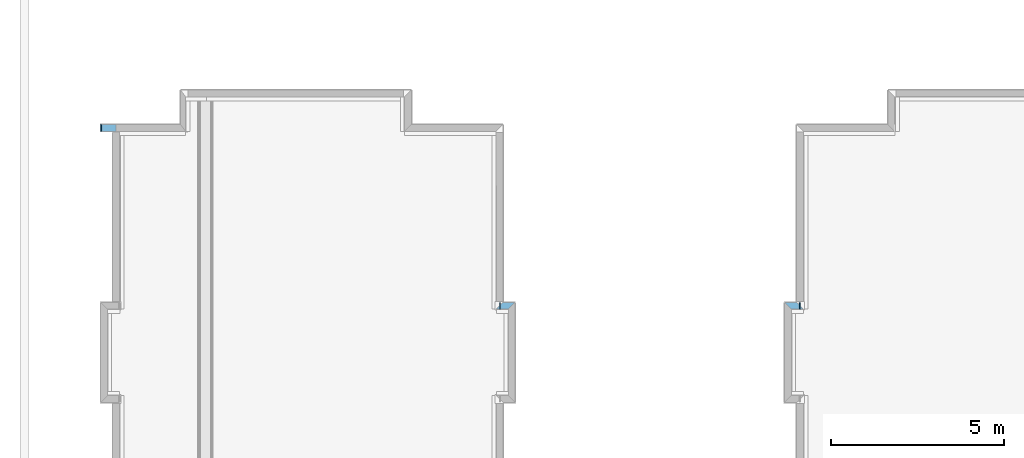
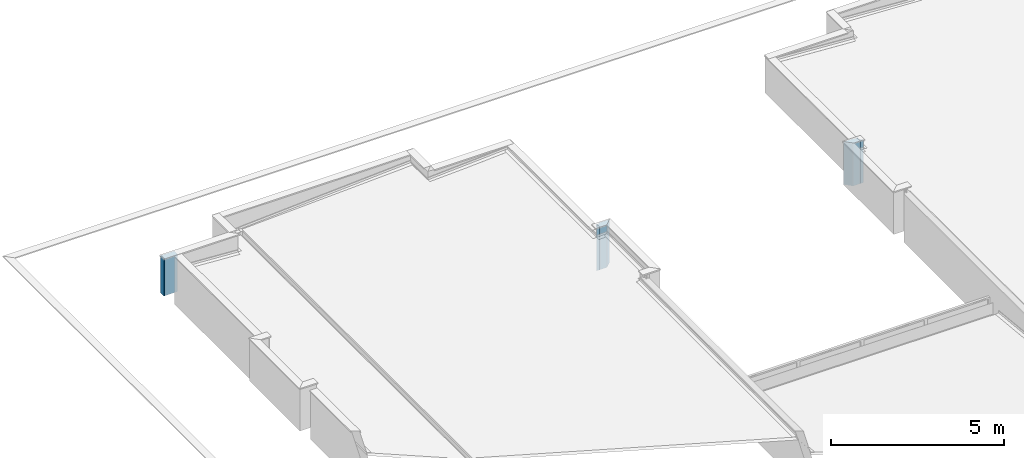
# One storey, part 19 of 25: 3 walls, 3 openings, plus 3 elements that do not belong to this part.
"""IFC4 building model written with IfcOpenShell, lengths in metres."""

from ifc_helpers import new_model, entity, si_unit, converted_unit, derived_unit, direction, frame, origin_with_axes, origin_2d_with_axis, place, context, subcontext, project, spatial, line, indexed_curve, rectangle, outline, extrude, polygons, material, layer, layer_set, layer_usage, constituent, constituent_set, type_object, element, fill, save


model = new_model("IFC4")

# Units and contexts
model_context = context("Model", 3, precision=1e-05, world=origin_with_axes(), true_north=direction((0.0, 1.0)))
body_context = subcontext(model_context, "Body", "Model", "MODEL_VIEW")
ifc_project = project(units=[si_unit("LENGTHUNIT", "METRE"), si_unit("AREAUNIT", "SQUARE_METRE"), si_unit("VOLUMEUNIT", "CUBIC_METRE"), converted_unit("PLANEANGLEUNIT", "DEGREE", entity("IfcPlaneAngleMeasure", 0.0174532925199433), si_unit("PLANEANGLEUNIT", "RADIAN"), dimensions=[0, 0, 0, 0, 0, 0, 0]), converted_unit("TIMEUNIT", "Year", entity("IfcTimeMeasure", 31557600.0), si_unit("TIMEUNIT", "SECOND"), dimensions=[0, 0, 1, 0, 0, 0, 0]), si_unit("MASSUNIT", "GRAM", prefix="KILO"), si_unit("THERMODYNAMICTEMPERATUREUNIT", "DEGREE_CELSIUS"), si_unit("LUMINOUSINTENSITYUNIT", "LUMEN"), si_unit("ENERGYUNIT", "JOULE", prefix="MEGA"), derived_unit("THERMALCONDUCTANCEUNIT", [(si_unit("POWERUNIT", "WATT"), 1), (si_unit("LENGTHUNIT", "METRE"), -1), (si_unit("THERMODYNAMICTEMPERATUREUNIT", "KELVIN"), -1)]), derived_unit("SPECIFICHEATCAPACITYUNIT", [(si_unit("ENERGYUNIT", "JOULE"), 1), (si_unit("MASSUNIT", "GRAM", prefix="KILO"), -1), (si_unit("THERMODYNAMICTEMPERATUREUNIT", "KELVIN"), -1)]), derived_unit("MASSDENSITYUNIT", [(si_unit("MASSUNIT", "GRAM", prefix="KILO"), 1), (si_unit("VOLUMEUNIT", "CUBIC_METRE"), -1)])], contexts=[model_context])

# Site, building, storey
site_placement = place(None, origin_with_axes())
site = spatial("IfcSite", under=ifc_project, at=site_placement, Name="PADRÃO", CompositionType="ELEMENT")
building_placement = place(site_placement, origin_with_axes())
building = spatial("IfcBuilding", under=site, at=building_placement, Name="CRECHE PRÉ-ESCOLA TIPO 2", CompositionType="ELEMENT")
storey_placement = place(building_placement, frame((0.0, 0.0, 3.26), z_axis=(0.0, 0.0, 1.0), x_axis=(1.0, 0.0, 0.0)))
storey = spatial("IfcBuildingStorey", under=building, at=storey_placement, Name="COBERTURA", CompositionType="ELEMENT", Elevation=3.26)

# Walls, opening
ifc_material_1 = material(Name="EI-REV-Pintura Acrílica Cor Branco Gelo")
ifc_layer_1 = layer(ifc_material_1, 0.015, ventilated="UNKNOWN", Name="EI-REV-Pintura Acrílica Cor Branco Gelo 1")
ifc_material_2 = material(Name="EI-REV-Massa Acrílica (externa)")
ifc_layer_2 = layer(ifc_material_2, 0.005, ventilated="UNKNOWN", Name="EI-REV-Massa Acrílica (externa) 1")
ifc_material_3 = material(Name="EI-REV-Massa única - Fachada")
ifc_layer_3 = layer(ifc_material_3, 0.005, ventilated="UNKNOWN", Name="EI-REV-Massa única - Fachada 1")
ifc_material_4 = material(Name="EI-REV-Chapisco (externo)")
ifc_layer_4 = layer(ifc_material_4, 0.005, ventilated="UNKNOWN", Name="EI-REV-Chapisco (externo) 1")
ifc_material_5 = material(Name="TIJOLO - CERAMICO 14x19x39 - espessura 20cm")
ifc_layer_5 = layer(ifc_material_5, 0.14, ventilated="UNKNOWN", Name="TIJOLO - CERAMICO 14x19x39 - espessura 20cm")
ifc_layer_6 = layer(ifc_material_4, 0.005, ventilated="UNKNOWN", Name="EI-REV-Chapisco (externo) 2")
ifc_layer_7 = layer(ifc_material_3, 0.005, ventilated="UNKNOWN", Name="EI-REV-Massa única - Fachada 2")
ifc_layer_8 = layer(ifc_material_2, 0.005, ventilated="UNKNOWN", Name="EI-REV-Massa Acrílica (externa) 2")
ifc_layer_9 = layer(ifc_material_1, 0.015, ventilated="UNKNOWN", Name="EI-REV-Pintura Acrílica Cor Branco Gelo 2")
ifc_layer_set_1 = layer_set([ifc_layer_1, ifc_layer_2, ifc_layer_3, ifc_layer_4, ifc_layer_5, ifc_layer_6, ifc_layer_7, ifc_layer_8, ifc_layer_9], Name="FNDE-PLAT_AL14-Pintura Branca")
ifc_layer_usage_1 = layer_usage(ifc_layer_set_1, "AXIS2", "NEGATIVE", 0.1)
wall_type_1 = type_object("IfcWallType", Name="FNDE-PLAT_AL14-Pintura Branca 200", PredefinedType="NOTDEFINED")
wall_1_placement = place(storey_placement, frame((-17.790012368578, 34.7001613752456, 0.0), z_axis=(0.0, 0.0, 1.0), x_axis=(0.999999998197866, 6.00355582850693e-05, 0.0)))
wall_1 = element("IfcWall", 1, at=wall_1_placement, inside=storey, type_object=wall_type_1, material=ifc_layer_usage_1, Name="AL14", PredefinedType="NOTDEFINED", context=body_context, shape_type="SweptSolid", body=[
    extrude(outline(indexed_curve([(0.0999939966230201, -0.100000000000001), (0.449955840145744, -0.100000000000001), (0.249967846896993, 0.100000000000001), (-0.0999939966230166, 0.100000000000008)], segments=[line(1, 2, 3, 4, 1)])), origin_with_axes(), (0.0, 0.0, 1.0), 1.51),
])
opening_1_placement = place(wall_1_placement, frame((0.34996184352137, 0.0, 0.0), z_axis=(0.0, 0.0, 1.0), x_axis=(1.0, 0.0, 0.0)))
opening_1 = element("IfcOpeningElement", 2, at=opening_1_placement, cuts=wall_1, Name="AL14", ObjectType="Recess", context=body_context, shape_type="Tessellation", body=[
    polygons([(-0.0199999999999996, -0.0799999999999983, 1.51), (-0.0199999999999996, -0.0799999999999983, 0.0), (-0.0200000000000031, -0.0850000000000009, 0.0), (-0.0200000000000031, -0.0850000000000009, 1.51), (-0.0249999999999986, -0.0799999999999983, 1.51), (-0.0249999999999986, -0.0799999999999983, 0.0), (0.0, 0.0, 0.0), (0.0, -0.100000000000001, 0.0), (-0.0150000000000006, -0.100000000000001, 0.0), (-0.0150000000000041, -0.0850000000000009, 0.0), (-0.0249999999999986, 0.0250015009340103, 0.0), (-0.0150000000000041, -0.0850000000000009, 1.51), (-0.0150000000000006, -0.100000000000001, 1.51), (0.0, -0.100000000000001, 1.51), (0.0, 0.0, 1.51), (-0.0249999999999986, 0.0250015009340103, 1.51)], [[[1, 2, 3, 4]], [[2, 1, 5, 6]], [[7, 8, 9, 10, 3, 2, 6, 11]], [[10, 12, 4, 3]], [[1, 4, 12, 13, 14, 15, 16, 5]], [[5, 16, 11, 6]], [[15, 14, 8, 7]], [[14, 13, 9, 8]], [[12, 10, 9, 13]], [[7, 11, 16, 15]]], closed=True),
])
ifc_constituent_1 = constituent(ifc_material_1, Name="EI-REV-Pintura Acrílica Cor Branco Gelo")
ifc_constituent_2 = constituent(ifc_material_2, Name="EI-REV-Massa Acrílica (externa)")
ifc_constituent_3 = constituent(ifc_material_3, Name="EI-REV-Massa única - Fachada")
ifc_constituent_set_1 = constituent_set(constituents=[ifc_constituent_1, ifc_constituent_2, ifc_constituent_3])
wall_type_2 = type_object("IfcWallType", Name="Arremate com Dobra Revest 27", PredefinedType="NOTDEFINED")
wall_2_placement = place(opening_1_placement, frame((0.0124999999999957, 0.0, 0.0), z_axis=(0.0, 0.0, 1.0), x_axis=(-1.0, 0.0, 0.0)))
wall_2 = element("IfcWall", 3, at=wall_2_placement, inside=storey, type_object=wall_type_2, material=ifc_constituent_set_1, Name="AL14", PredefinedType="NOTDEFINED", context=body_context, shape_type="Tessellation", body=[
    polygons([(0.0124999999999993, -0.0849999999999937, 0.0), (0.0274999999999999, -0.0849999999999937, 0.0), (0.0274999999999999, -0.0849999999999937, 1.51), (0.0124999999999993, -0.0849999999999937, 1.51), (0.0124999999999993, 0.100000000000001, 0.0), (0.0274999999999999, 0.100000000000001, 0.0), (0.0274999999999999, 0.100000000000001, 1.51), (0.0124999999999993, 0.100000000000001, 1.51)], [[[1, 2, 3, 4]], [[5, 6, 2, 1]], [[6, 7, 3, 2]], [[7, 8, 4, 3]], [[8, 5, 1, 4]], [[5, 8, 7, 6]]], closed=True),
    polygons([(0.0274999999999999, -0.0849999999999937, 0.0), (0.0324999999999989, -0.0850000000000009, 0.0), (0.0324999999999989, -0.0850000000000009, 1.51), (0.0274999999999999, -0.0849999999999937, 1.51), (0.0275000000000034, 0.0850000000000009, 0.0), (0.0325000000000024, 0.0850000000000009, 0.0), (0.0325000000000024, 0.0850000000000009, 1.51), (0.0275000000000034, 0.0850000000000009, 1.51)], [[[1, 2, 3, 4]], [[5, 6, 2, 1]], [[6, 7, 3, 2]], [[7, 8, 4, 3]], [[8, 5, 1, 4]], [[5, 8, 7, 6]]], closed=True),
    polygons([(0.0324999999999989, -0.0850000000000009, 0.0), (0.0374999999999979, -0.0849999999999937, 0.0), (0.0374999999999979, -0.0849999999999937, 1.51), (0.0324999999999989, -0.0850000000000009, 1.51), (0.0324999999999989, 0.0799999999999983, 0.0), (0.0374999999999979, 0.0799999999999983, 0.0), (0.0374999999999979, 0.0799999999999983, 1.51), (0.0324999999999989, 0.0799999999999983, 1.51)], [[[1, 2, 3, 4]], [[5, 6, 2, 1]], [[6, 7, 3, 2]], [[7, 8, 4, 3]], [[8, 5, 1, 4]], [[5, 8, 7, 6]]], closed=True),
])
fill(opening_1, wall_2)

ifc_layer_usage_2 = layer_usage(ifc_layer_set_1, "AXIS2", "POSITIVE", -0.1)
wall_3_placement = place(storey_placement, frame((-25.7895277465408, 34.7001619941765, 0.0), z_axis=(0.0, 0.0, 1.0), x_axis=(-0.999999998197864, 6.00355854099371e-05, 0.0)))
wall_3 = element("IfcWall", 4, at=wall_3_placement, inside=storey, type_object=wall_type_1, material=ifc_layer_usage_2, Name="AL14", PredefinedType="NOTDEFINED", context=body_context, shape_type="SweptSolid", body=[
    extrude(outline(indexed_curve([(-0.0999939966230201, -0.100000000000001), (0.250574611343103, -0.100000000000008), (0.450562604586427, 0.100000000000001), (0.0999939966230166, 0.100000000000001)], segments=[line(1, 2, 3, 4, 1)])), origin_with_axes(), (0.0, 0.0, 1.0), 1.51),
])
opening_2_placement = place(wall_3_placement, frame((0.350568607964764, 0.0, 0.0), z_axis=(0.0, 0.0, 1.0), x_axis=(1.0, 0.0, 0.0)))
opening_2 = element("IfcOpeningElement", 5, at=opening_2_placement, cuts=wall_3, Name="AL14", ObjectType="Recess", context=body_context, shape_type="Tessellation", body=[
    polygons([(-0.0199999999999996, 0.0799999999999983, 0.0), (-0.0199999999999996, 0.0799999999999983, 1.51), (-0.0199999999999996, 0.085000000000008, 1.51), (-0.0199999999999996, 0.085000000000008, 0.0), (-0.0249999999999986, 0.0800000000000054, 0.0), (-0.0249999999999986, 0.0800000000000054, 1.51), (0.0, 0.0, 1.51), (0.0, 0.0999999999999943, 1.51), (-0.0149999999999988, 0.100000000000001, 1.51), (-0.0149999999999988, 0.0850000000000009, 1.51), (-0.0249999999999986, -0.0250015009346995, 1.51), (-0.0149999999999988, 0.0850000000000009, 0.0), (-0.0149999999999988, 0.100000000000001, 0.0), (0.0, 0.0999999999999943, 0.0), (0.0, 0.0, 0.0), (-0.0249999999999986, -0.0250015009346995, 0.0)], [[[1, 2, 3, 4]], [[2, 1, 5, 6]], [[7, 8, 9, 10, 3, 2, 6, 11]], [[10, 12, 4, 3]], [[1, 4, 12, 13, 14, 15, 16, 5]], [[11, 6, 5, 16]], [[8, 7, 15, 14]], [[9, 8, 14, 13]], [[12, 10, 9, 13]], [[11, 16, 15, 7]]], closed=True),
])
ifc_constituent_4 = constituent(ifc_material_1, Name="EI-REV-Pintura Acrílica Cor Branco Gelo")
ifc_constituent_5 = constituent(ifc_material_2, Name="EI-REV-Massa Acrílica (externa)")
ifc_constituent_6 = constituent(ifc_material_3, Name="EI-REV-Massa única - Fachada")
ifc_constituent_set_2 = constituent_set(constituents=[ifc_constituent_4, ifc_constituent_5, ifc_constituent_6])
wall_4_placement = place(opening_2_placement, frame((-0.0124999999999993, 0.0, 0.0), z_axis=(0.0, 0.0, 1.0), x_axis=(1.0, 0.0, 0.0)))
wall_4 = element("IfcWall", 6, at=wall_4_placement, inside=storey, type_object=wall_type_2, material=ifc_constituent_set_2, Name="AL14", PredefinedType="NOTDEFINED", context=body_context, shape_type="Tessellation", body=[
    polygons([(0.0124999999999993, 0.0999999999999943, 0.0), (-0.0024999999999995, 0.100000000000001, 0.0), (-0.0024999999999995, 0.100000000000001, 1.51), (0.0124999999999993, 0.0999999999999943, 1.51), (0.0124999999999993, -0.0849999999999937, 0.0), (-0.0024999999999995, -0.085000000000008, 0.0), (-0.0024999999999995, -0.085000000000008, 1.51), (0.0124999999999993, -0.0849999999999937, 1.51)], [[[1, 2, 3, 4]], [[5, 6, 2, 1]], [[6, 7, 3, 2]], [[7, 8, 4, 3]], [[8, 5, 1, 4]], [[5, 8, 7, 6]]], closed=True),
    polygons([(-0.0024999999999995, 0.0850000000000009, 0.0), (-0.00750000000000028, 0.085000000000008, 0.0), (-0.00750000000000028, 0.085000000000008, 1.51), (-0.0024999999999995, 0.0850000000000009, 1.51), (-0.0024999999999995, -0.085000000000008, 0.0), (-0.00750000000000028, -0.0850000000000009, 0.0), (-0.00750000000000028, -0.0850000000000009, 1.51), (-0.0024999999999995, -0.085000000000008, 1.51)], [[[1, 2, 3, 4]], [[5, 6, 2, 1]], [[6, 7, 3, 2]], [[7, 8, 4, 3]], [[8, 5, 1, 4]], [[5, 8, 7, 6]]], closed=True),
    polygons([(-0.00750000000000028, 0.0799999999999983, 0.0), (-0.0124999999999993, 0.0800000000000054, 0.0), (-0.0124999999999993, 0.0800000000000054, 1.51), (-0.00750000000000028, 0.0799999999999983, 1.51), (-0.00750000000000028, -0.0850000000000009, 0.0), (-0.0125000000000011, -0.0850000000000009, 0.0), (-0.0125000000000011, -0.0850000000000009, 1.51), (-0.00750000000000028, -0.0850000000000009, 1.51)], [[[1, 2, 3, 4]], [[5, 6, 2, 1]], [[6, 7, 3, 2]], [[7, 8, 4, 3]], [[8, 5, 1, 4]], [[5, 8, 7, 6]]], closed=True),
])
fill(opening_2, wall_4)

ifc_material_6 = material(Name="EI-REV-Pintura Acrílica Cor Cinza")
ifc_layer_10 = layer(ifc_material_6, 0.015, ventilated="UNKNOWN", Name="EI-REV-Pintura Acrílica Cor Cinza 1")
ifc_layer_11 = layer(ifc_material_2, 0.005, ventilated="UNKNOWN", Name="EI-REV-Massa Acrílica (externa) 1")
ifc_layer_12 = layer(ifc_material_3, 0.005, ventilated="UNKNOWN", Name="EI-REV-Massa única - Fachada 1")
ifc_layer_13 = layer(ifc_material_4, 0.005, ventilated="UNKNOWN", Name="EI-REV-Chapisco (externo) 1")
ifc_layer_14 = layer(ifc_material_5, 0.14, ventilated="UNKNOWN", Name="TIJOLO - CERAMICO 14x19x39 - espessura 20cm")
ifc_layer_15 = layer(ifc_material_4, 0.005, ventilated="UNKNOWN", Name="EI-REV-Chapisco (externo) 2")
ifc_layer_16 = layer(ifc_material_3, 0.005, ventilated="UNKNOWN", Name="EI-REV-Massa única - Fachada 2")
ifc_layer_17 = layer(ifc_material_2, 0.005, ventilated="UNKNOWN", Name="EI-REV-Massa Acrílica (externa) 2")
ifc_layer_18 = layer(ifc_material_6, 0.015, ventilated="UNKNOWN", Name="EI-REV-Pintura Acrílica Cor Cinza 2")
ifc_layer_set_2 = layer_set([ifc_layer_10, ifc_layer_11, ifc_layer_12, ifc_layer_13, ifc_layer_14, ifc_layer_15, ifc_layer_16, ifc_layer_17, ifc_layer_18], Name="FNDE-PLAT_AL14-Pintura cinza")
ifc_layer_usage_3 = layer_usage(ifc_layer_set_2, "AXIS2", "POSITIVE", -0.1)
wall_type_3 = type_object("IfcWallType", Name="FNDE-PLAT_AL14-Pintura cinza 200", PredefinedType="NOTDEFINED")
wall_5_placement = place(storey_placement, frame((-37.2401040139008, 39.8500019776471, 0.0), z_axis=(0.0, 0.0, 1.0), x_axis=(-1.0, -2.17138795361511e-08, 0.0)))
wall_5 = element("IfcWall", 7, at=wall_5_placement, inside=storey, type_object=wall_type_3, material=ifc_layer_usage_3, Name="AL14", PredefinedType="NOTDEFINED", context=body_context, shape_type="SweptSolid", body=[
    extrude(outline(indexed_curve([(0.0, -0.100000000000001), (0.449967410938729, -0.100000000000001), (0.449967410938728, 0.100000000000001), (0.0, 0.100000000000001)], segments=[line(1, 2, 3, 4, 1)])), origin_with_axes(), (0.0, 0.0, 1.0), 1.31),
])
opening_3_placement = place(wall_5_placement, frame((0.449967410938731, 0.0, 0.0), z_axis=(0.0, 0.0, 1.0), x_axis=(1.0, 0.0, 0.0)))
opening_3 = element("IfcOpeningElement", 8, at=opening_3_placement, cuts=wall_5, Name="AL14", context=body_context, shape_type="SweptSolid", body=[
    extrude(rectangle(XDim=0.200000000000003, YDim=0.0150000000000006, at=origin_2d_with_axis()), frame((-0.00749999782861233, -9.60768176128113e-09, 0.0), z_axis=(0.0, 0.0, 1.0), x_axis=(-2.17138795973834e-08, -1.0, 0.0)), (0.0, 0.0, 1.0), 1.31),
    extrude(rectangle(XDim=0.185000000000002, YDim=0.00500000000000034, at=origin_2d_with_axis()), frame((-0.0174999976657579, 0.00749999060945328, 0.0), z_axis=(0.0, 0.0, 1.0), x_axis=(-2.17138795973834e-08, -1.0, 0.0)), (0.0, 0.0, 1.0), 1.31),
    extrude(rectangle(XDim=0.18, YDim=0.00500000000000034, at=origin_2d_with_axis()), frame((-0.0224999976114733, 0.00999999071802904, 0.0), z_axis=(0.0, 0.0, 1.0), x_axis=(-2.17138795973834e-08, -1.0, 0.0)), (0.0, 0.0, 1.0), 1.31),
])
ifc_constituent_7 = constituent(ifc_material_6, Name="EI-REV-Pintura Acrílica Cor Cinza")
ifc_constituent_8 = constituent(ifc_material_2, Name="EI-REV-Massa Acrílica (externa)")
ifc_constituent_9 = constituent(ifc_material_3, Name="EI-REV-Massa única - Fachada")
ifc_constituent_set_3 = constituent_set(constituents=[ifc_constituent_7, ifc_constituent_8, ifc_constituent_9])
wall_6_placement = place(opening_3_placement, frame((-0.0125000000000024, 0.0, 0.0), z_axis=(0.0, 0.0, 1.0), x_axis=(1.0, 0.0, 0.0)))
wall_6 = element("IfcWall", 9, at=wall_6_placement, inside=storey, type_object=wall_type_2, material=ifc_constituent_set_3, Name="AL14", PredefinedType="NOTDEFINED", context=body_context, shape_type="Tessellation", body=[
    polygons([(0.0125000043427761, 0.0999999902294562, 0.0), (-0.00249999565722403, 0.0999999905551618, 0.0), (-0.00249999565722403, 0.0999999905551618, 1.31), (0.0125000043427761, 0.0999999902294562, 1.31), (0.0125000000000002, -0.100000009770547, 0.0), (-0.00249999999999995, -0.100000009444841, 0.0), (-0.00249999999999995, -0.100000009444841, 1.31), (0.0125000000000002, -0.100000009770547, 1.31)], [[[1, 2, 3, 4]], [[5, 6, 2, 1]], [[6, 7, 3, 2]], [[7, 8, 4, 3]], [[8, 5, 1, 4]], [[5, 8, 7, 6]]], closed=True),
    polygons([(-0.00249999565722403, 0.0999999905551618, 0.0), (-0.00749999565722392, 0.0999999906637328, 0.0), (-0.00749999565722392, 0.0999999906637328, 1.31), (-0.00249999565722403, 0.0999999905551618, 1.31), (-0.0024999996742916, -0.0850000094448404, 0.0), (-0.00749999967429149, -0.0850000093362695, 0.0), (-0.00749999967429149, -0.0850000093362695, 1.31), (-0.0024999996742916, -0.0850000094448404, 1.31)], [[[1, 2, 3, 4]], [[5, 6, 2, 1]], [[6, 7, 3, 2]], [[7, 8, 4, 3]], [[8, 5, 1, 4]], [[5, 8, 7, 6]]], closed=True),
    polygons([(-0.00749999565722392, 0.0999999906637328, 0.0), (-0.0124999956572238, 0.0999999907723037, 0.0), (-0.0124999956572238, 0.0999999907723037, 1.31), (-0.00749999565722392, 0.0999999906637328, 1.31), (-0.00749999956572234, -0.0800000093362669, 0.0), (-0.0124999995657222, -0.080000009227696, 0.0), (-0.0124999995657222, -0.080000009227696, 1.31), (-0.00749999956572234, -0.0800000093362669, 1.31)], [[[1, 2, 3, 4]], [[5, 6, 2, 1]], [[6, 7, 3, 2]], [[7, 8, 4, 3]], [[8, 5, 1, 4]], [[5, 8, 7, 6]]], closed=True),
])
fill(opening_3, wall_6)

save(model, "model.ifc")
